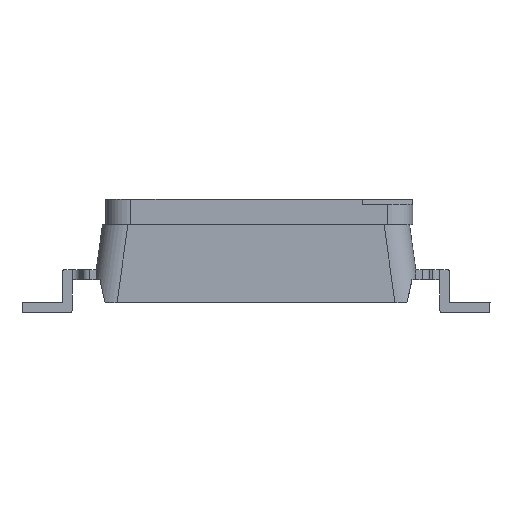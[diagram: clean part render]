
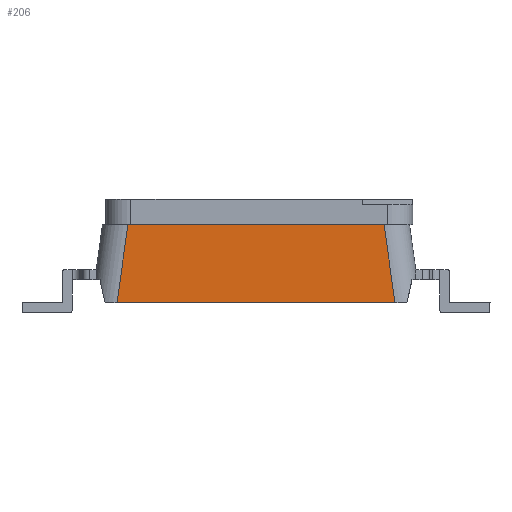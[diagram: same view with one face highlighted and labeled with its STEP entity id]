
A CAD part, left-side view. The second image highlights one B-rep face of the part: STEP entity #206.
In plain terms, the highlighted planar face has unit normal (-1, 0, 0).
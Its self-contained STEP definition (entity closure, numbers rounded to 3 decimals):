
#114=CARTESIAN_POINT('',(-5.7,2.76,0.0));
#115=VERTEX_POINT('',#114);
#123=CARTESIAN_POINT('',(-5.7,2.545,1.55));
#124=VERTEX_POINT('',#123);
#125=CARTESIAN_POINT('',(-5.7,2.76,0.));
#126=DIRECTION('',(0.0,-0.138,0.99));
#127=VECTOR('',#126,1.565);
#128=LINE('',#125,#127);
#129=EDGE_CURVE('',#115,#124,#128,.T.);
#176=CARTESIAN_POINT('',(-5.7,-3.175,0.0));
#177=DIRECTION('',(-1.0,0.0,0.0));
#178=DIRECTION('',(0.0,0.0,1.0));
#179=AXIS2_PLACEMENT_3D('',#176,#177,#178);
#180=PLANE('',#179);
#181=ORIENTED_EDGE('',*,*,#129,.F.);
#182=CARTESIAN_POINT('',(-5.7,-2.76,0.0));
#183=VERTEX_POINT('',#182);
#184=CARTESIAN_POINT('',(-5.7,-2.76,0.0));
#185=DIRECTION('',(0.0,1.0,0.0));
#186=VECTOR('',#185,5.521);
#187=LINE('',#184,#186);
#188=EDGE_CURVE('',#183,#115,#187,.T.);
#189=ORIENTED_EDGE('',*,*,#188,.F.);
#190=CARTESIAN_POINT('',(-5.7,-2.545,1.55));
#191=VERTEX_POINT('',#190);
#192=CARTESIAN_POINT('',(-5.7,-2.545,1.55));
#193=DIRECTION('',(0.0,-0.138,-0.99));
#194=VECTOR('',#193,1.565);
#195=LINE('',#192,#194);
#196=EDGE_CURVE('',#191,#183,#195,.T.);
#197=ORIENTED_EDGE('',*,*,#196,.F.);
#198=CARTESIAN_POINT('',(-5.7,-2.545,1.55));
#199=DIRECTION('',(0.0,1.0,0.0));
#200=VECTOR('',#199,5.09);
#201=LINE('',#198,#200);
#202=EDGE_CURVE('',#191,#124,#201,.T.);
#203=ORIENTED_EDGE('',*,*,#202,.T.);
#204=EDGE_LOOP('',(#181,#189,#197,#203));
#205=FACE_OUTER_BOUND('',#204,.T.);
#206=ADVANCED_FACE('',(#205),#180,.T.);
